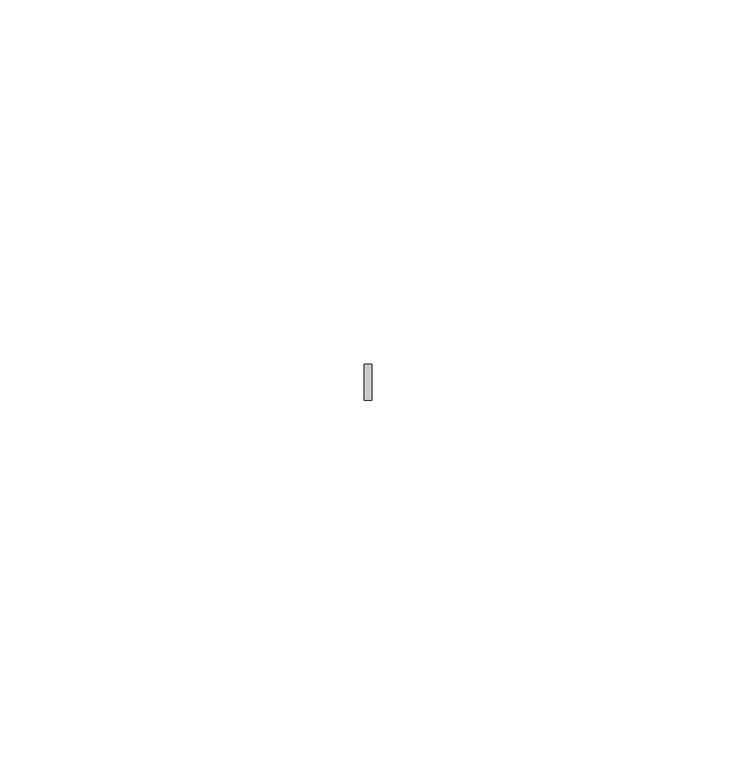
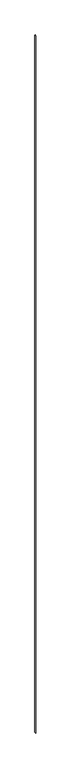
"""IFC4 building model written with IfcOpenShell, lengths in millimetres: member geometry, Прямоугольный импост : 1-AMG-1-Профиль (скотч 3М) 1 средний."""

from ifc_helpers import new_model, si_unit, frame, origin, place, context, project, spatial, polyline, outline, extrude, source, transform, mapped, element, save


def member_dd4c644b(model_context):
    return source(origin(), model_context, "Body", "SweptSolid", [
        extrude(outline(polyline([(0.5087396, -34.5), (-0.5292752, -34.5), (-0.5292752, -29.5), (0.5087396, -29.5), (0.5087396, -34.5)])), frame((0.0, 0.0, -2717.7849139), z_axis=(0.0, 0.0, 1.0), x_axis=(1.0, 0.0, 0.0)), (0.0, 0.0, 1.0), 2717.7849139),
    ])


if __name__ == "__main__":
    model = new_model("IFC4")
    model_context = context("Model", 3, world=origin())
    ifc_project = project(units=[si_unit("LENGTHUNIT", "METRE", prefix="MILLI")], contexts=[model_context])
    site = spatial("IfcSite", under=ifc_project)
    building = spatial("IfcBuilding", under=site)
    placement = place(None, origin())
    member_shape = member_dd4c644b(model_context)
    element("IfcMember", 1, ObjectType="Прямоугольный импост : 1-AMG-1-Профиль (скотч 3М) 1 средний", at=placement, inside=building, context=model_context, shape_type="MappedRepresentation", body=[
        mapped(member_shape, transform((0.0, 0.0, 0.0), x_axis=(1.0, 0.0, 0.0), y_axis=(0.0, 1.0, 0.0), z_axis=(0.0, 0.0, 1.0))),
    ])
    save(model, "model.ifc")
